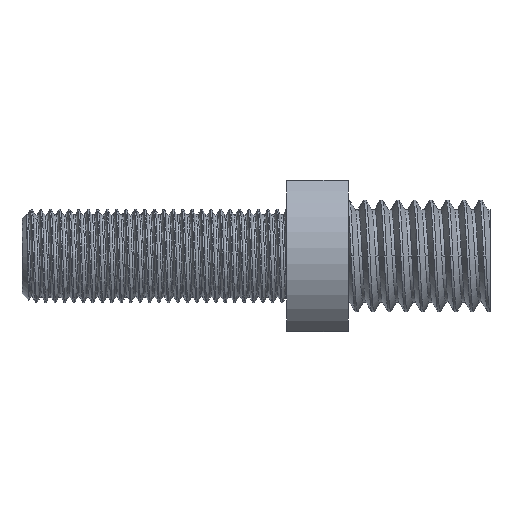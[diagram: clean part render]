
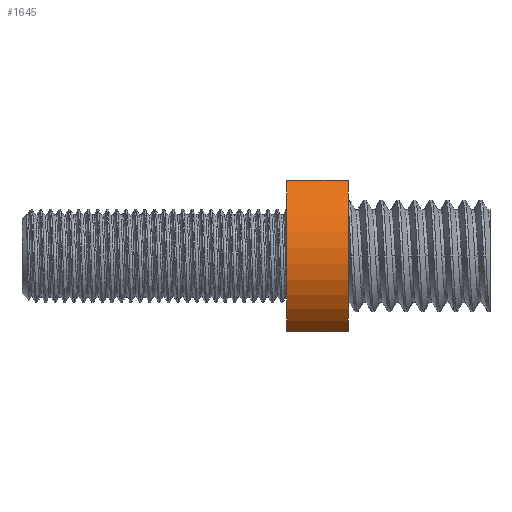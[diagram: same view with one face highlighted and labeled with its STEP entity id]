
A CAD part, left-side view. The second image highlights one B-rep face of the part: STEP entity #1645.
In plain terms, the highlighted cylindrical face has radius 10 mm (diameter 20 mm), a partial arc.
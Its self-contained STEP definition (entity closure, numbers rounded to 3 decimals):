
#114=FACE_OUTER_BOUND('',#205,.T.);
#205=EDGE_LOOP('',(#1455,#1456,#1457,#1458));
#223=CIRCLE('',#1756,10.);
#224=CIRCLE('',#1757,10.);
#462=LINE('',#11300,#543);
#463=LINE('',#11306,#544);
#543=VECTOR('',#2024,10.);
#544=VECTOR('',#2031,10.);
#711=VERTEX_POINT('',#11294);
#713=VERTEX_POINT('',#11298);
#714=VERTEX_POINT('',#11302);
#715=VERTEX_POINT('',#11304);
#964=EDGE_CURVE('',#711,#713,#462,.T.);
#965=EDGE_CURVE('',#714,#711,#223,.T.);
#966=EDGE_CURVE('',#715,#713,#224,.T.);
#967=EDGE_CURVE('',#714,#715,#463,.T.);
#1455=ORIENTED_EDGE('',*,*,#965,.T.);
#1456=ORIENTED_EDGE('',*,*,#964,.T.);
#1457=ORIENTED_EDGE('',*,*,#966,.F.);
#1458=ORIENTED_EDGE('',*,*,#967,.F.);
#1559=CYLINDRICAL_SURFACE('',#1755,10.);
#1645=ADVANCED_FACE('',(#114),#1559,.T.);
#1755=AXIS2_PLACEMENT_3D('',#11301,#2025,#2026);
#1756=AXIS2_PLACEMENT_3D('',#11303,#2027,#2028);
#1757=AXIS2_PLACEMENT_3D('',#11305,#2029,#2030);
#2024=DIRECTION('',(0.,1.,0.));
#2025=DIRECTION('center_axis',(0.,1.,0.));
#2026=DIRECTION('ref_axis',(-1.,0.,0.));
#2027=DIRECTION('center_axis',(0.,1.,0.));
#2028=DIRECTION('ref_axis',(-1.,0.,0.));
#2029=DIRECTION('center_axis',(0.,1.,0.));
#2030=DIRECTION('ref_axis',(-1.,0.,0.));
#2031=DIRECTION('',(0.,1.,0.));
#11294=CARTESIAN_POINT('',(-6.,49.9,8.));
#11298=CARTESIAN_POINT('',(-6.,56.4,8.));
#11300=CARTESIAN_POINT('',(-6.,49.9,8.));
#11301=CARTESIAN_POINT('Origin',(0.,49.9,0.));
#11302=CARTESIAN_POINT('',(-6.,49.9,-8.));
#11303=CARTESIAN_POINT('Origin',(0.,49.9,0.));
#11304=CARTESIAN_POINT('',(-6.,56.4,-8.));
#11305=CARTESIAN_POINT('Origin',(0.,56.4,0.));
#11306=CARTESIAN_POINT('',(-6.,49.9,-8.));
